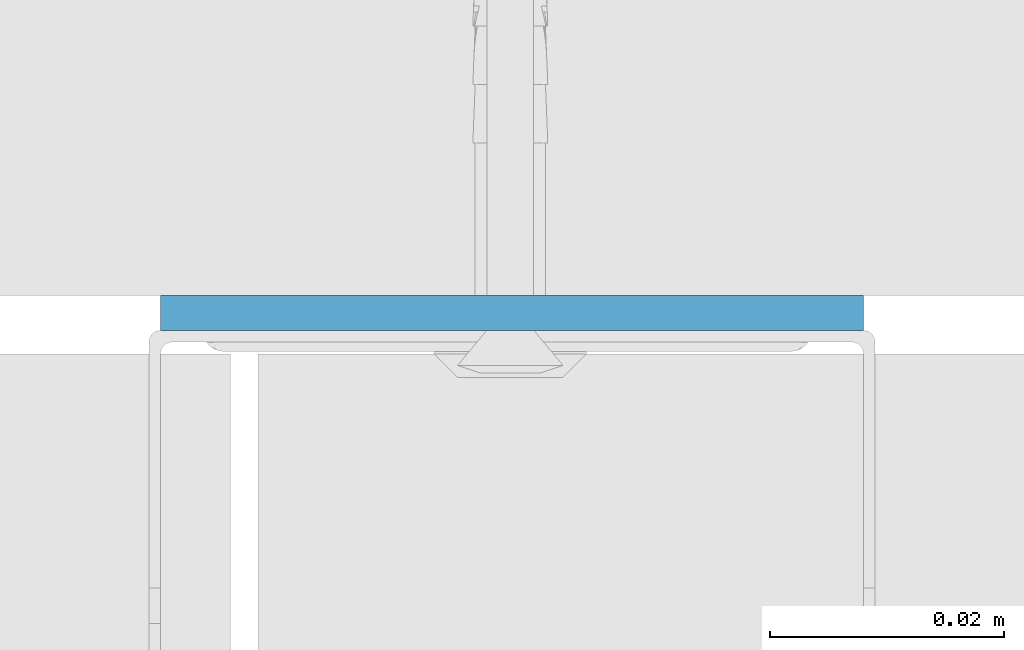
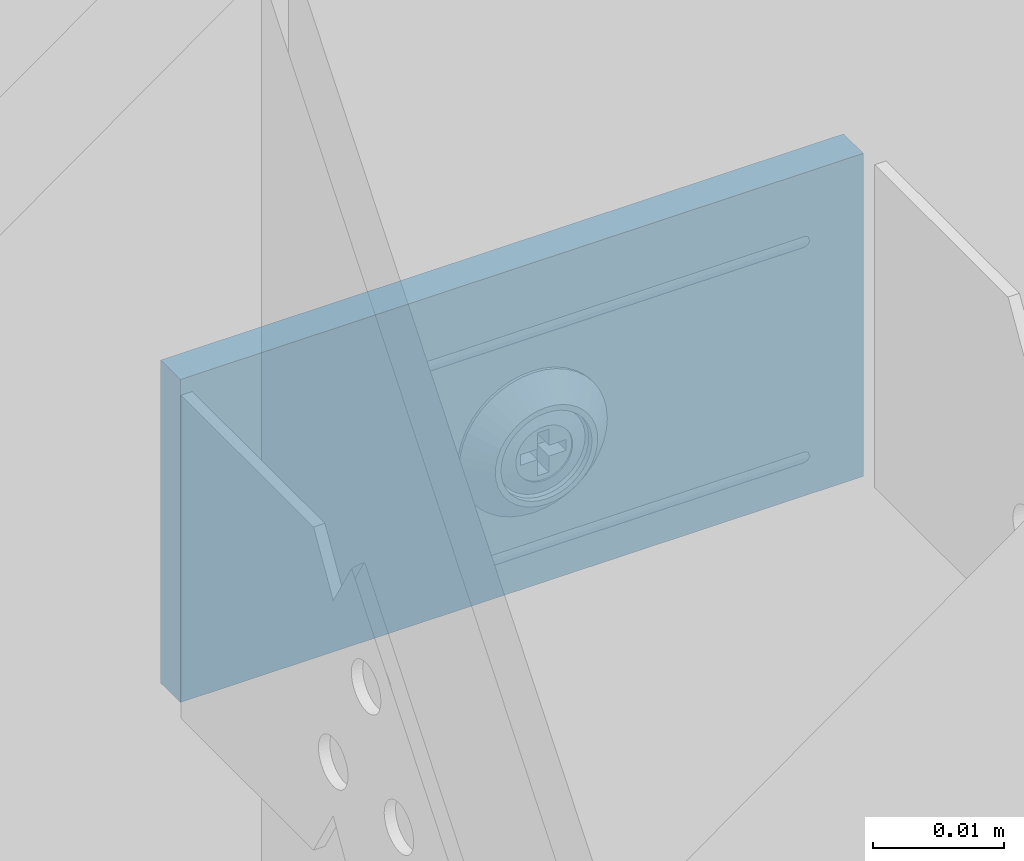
# One storey, part 12 of 48: 1 wall.
"""IFC2X3 building model written with IfcOpenShell, lengths in millimetres."""

from ifc_helpers import new_model, entity, si_unit, converted_unit, direction, frame, origin, origin_with_axes, place, context, project, spatial, faceted_brep, element, save


model = new_model("IFC2X3")

# Units and contexts
model_context = context("Model", 3, precision=1e-05, world=origin(), true_north=direction((0.0, 1.0, 0.0)))
ifc_project = project(units=[si_unit("LENGTHUNIT", "METRE", prefix="MILLI"), si_unit("AREAUNIT", "SQUARE_METRE"), si_unit("VOLUMEUNIT", "CUBIC_METRE"), converted_unit("PLANEANGLEUNIT", "DEGREE", entity("IfcPlaneAngleMeasure", 0.01745), si_unit("PLANEANGLEUNIT", "RADIAN"), dimensions=[0, 0, 0, 0, 0, 0, 0]), si_unit("SOLIDANGLEUNIT", "STERADIAN"), si_unit("MASSUNIT", "GRAM"), si_unit("TIMEUNIT", "SECOND"), si_unit("THERMODYNAMICTEMPERATUREUNIT", "DEGREE_CELSIUS"), si_unit("LUMINOUSINTENSITYUNIT", "LUMEN")], contexts=[model_context])

# Site, building, storey
site_placement = place(None, origin_with_axes())
site = spatial("IfcSite", under=ifc_project, at=site_placement, Name="Default Site", CompositionType="ELEMENT")
building_placement = place(site_placement, origin_with_axes())
building = spatial("IfcBuilding", under=site, at=building_placement, Name="Default Building", CompositionType="ELEMENT")
storey_placement = place(building_placement, origin_with_axes())
storey = spatial("IfcBuildingStorey", under=building, at=storey_placement, Name="Default Building Storey", CompositionType="ELEMENT", Elevation=0.0)

# Wall
wall_placement = place(storey_placement, frame((2255.939502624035, 2019.140922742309, 1121.101645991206), z_axis=(0.0, 0.0, 1.0), x_axis=(1.0, 0.0, 0.0)))
element("IfcWall", 1, at=wall_placement, inside=storey, Name="Taśma uszczelniająca piankowa RIGIPS szer.30mm", context=model_context, shape_type="Brep", body=[
    faceted_brep([(59.99999999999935, 0.0, 4.511946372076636e-12), (0.0, 0.0, 0.0), (1.082867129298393e-12, -2.237925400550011e-11, -30.00000000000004), (60.00000000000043, -2.237925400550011e-11, -29.99999999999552), (0.0, 3.00000000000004, 0.0), (1.082867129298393e-12, 2.999999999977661, -30.00000000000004), (60.00000000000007, 3.00000000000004, 0.0), (60.00000000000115, 2.999999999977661, -30.00000000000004)], [[[0, 1, 2, 3]], [[1, 4, 5, 2]], [[4, 6, 7, 5]], [[6, 0, 3, 7]], [[7, 3, 2, 5]], [[0, 6, 4, 1]]]),
])

save(model, "model.ifc")
